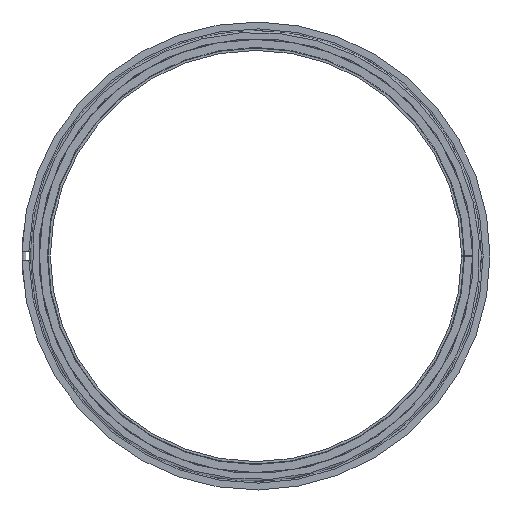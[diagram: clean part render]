
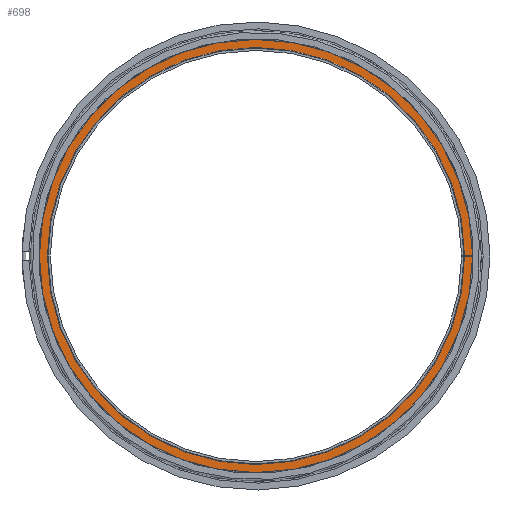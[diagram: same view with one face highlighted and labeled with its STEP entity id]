
A CAD part, left-side view. The second image highlights one B-rep face of the part: STEP entity #698.
In plain terms, the highlighted planar face has unit normal (-1, 0, 0).
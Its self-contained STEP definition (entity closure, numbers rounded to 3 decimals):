
#60=LINE('',#1232,#106);
#64=LINE('',#1242,#110);
#106=VECTOR('',#912,4.1);
#110=VECTOR('',#922,4.1);
#136=PLANE('',#772);
#177=FACE_OUTER_BOUND('',#219,.T.);
#219=EDGE_LOOP('',(#617,#618,#619,#620));
#263=CIRCLE('',#758,106.5);
#270=CIRCLE('',#773,110.6);
#325=VERTEX_POINT('',#1229);
#326=VERTEX_POINT('',#1231);
#328=VERTEX_POINT('',#1239);
#329=VERTEX_POINT('',#1241);
#410=EDGE_CURVE('',#326,#325,#60,.T.);
#415=EDGE_CURVE('',#329,#328,#64,.T.);
#425=EDGE_CURVE('',#325,#329,#263,.T.);
#432=EDGE_CURVE('',#326,#328,#270,.T.);
#617=ORIENTED_EDGE('',*,*,#410,.T.);
#618=ORIENTED_EDGE('',*,*,#425,.T.);
#619=ORIENTED_EDGE('',*,*,#415,.T.);
#620=ORIENTED_EDGE('',*,*,#432,.F.);
#698=ADVANCED_FACE('',(#177),#136,.T.);
#758=AXIS2_PLACEMENT_3D('',#1260,#935,#936);
#772=AXIS2_PLACEMENT_3D('',#1274,#963,#964);
#773=AXIS2_PLACEMENT_3D('',#1275,#965,#966);
#912=DIRECTION('',(0.,1.,0.));
#922=DIRECTION('',(0.,-1.,0.));
#935=DIRECTION('center_axis',(1.,0.,0.));
#936=DIRECTION('ref_axis',(0.,1.,0.));
#963=DIRECTION('center_axis',(-1.,0.,0.));
#964=DIRECTION('ref_axis',(0.,0.,1.));
#965=DIRECTION('center_axis',(1.,0.,0.));
#966=DIRECTION('ref_axis',(0.,1.,0.));
#1229=CARTESIAN_POINT('',(-1.973,-106.499,-0.5));
#1231=CARTESIAN_POINT('',(-1.973,-110.599,-0.5));
#1232=CARTESIAN_POINT('',(-1.973,-1.024,-0.5));
#1239=CARTESIAN_POINT('',(-1.973,-110.599,0.5));
#1241=CARTESIAN_POINT('',(-1.973,-106.499,0.5));
#1242=CARTESIAN_POINT('',(-1.973,1.776,0.5));
#1260=CARTESIAN_POINT('Origin',(-1.973,0.,
0.));
#1274=CARTESIAN_POINT('Origin',(-1.973,108.55,0.));
#1275=CARTESIAN_POINT('Origin',(-1.973,0.,
0.));
